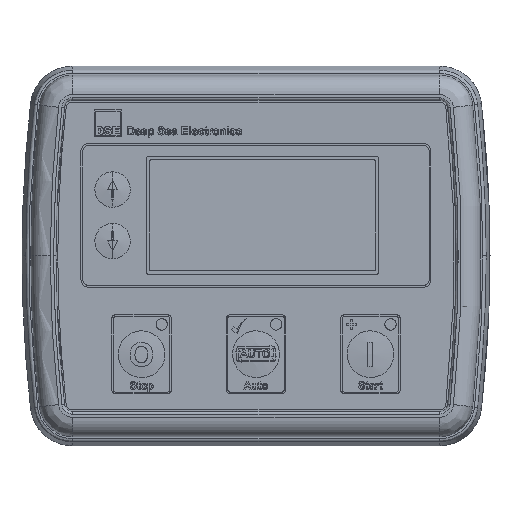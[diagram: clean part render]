
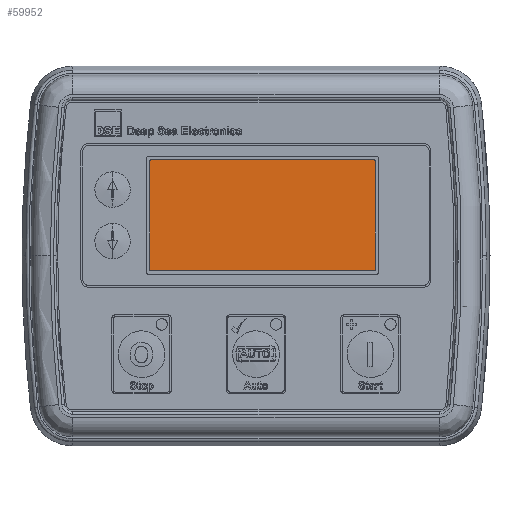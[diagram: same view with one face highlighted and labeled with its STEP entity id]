
A CAD part, top view. The second image highlights one B-rep face of the part: STEP entity #59952.
In plain terms, the highlighted planar face has unit normal (0, 0, 1).
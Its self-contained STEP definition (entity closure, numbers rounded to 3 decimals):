
#405 = CARTESIAN_POINT ( 'NONE',  ( -32.662, 29.83, 7.55 ) ) ;
#512 = CARTESIAN_POINT ( 'NONE',  ( 36.501, 29.848, 7.55 ) ) ;
#906 = CARTESIAN_POINT ( 'NONE',  ( 36.878, 29.676, 7.55 ) ) ;
#1164 = CARTESIAN_POINT ( 'NONE',  ( -32.633, -4.639, 7.55 ) ) ;
#1983 = CARTESIAN_POINT ( 'NONE',  ( -32.5, -4.652, 7.55 ) ) ;
#2278 = DIRECTION ( 'NONE',  ( 1., 0., 0. ) ) ;
#2480 = ORIENTED_EDGE ( 'NONE', *, *, #29955, .T. ) ;
#2641 = VERTEX_POINT ( 'NONE', #37662 ) ;
#5027 = VERTEX_POINT ( 'NONE', #40585 ) ;
#5478 = LINE ( 'NONE', #76329, #14823 ) ;
#6711 = CARTESIAN_POINT ( 'NONE',  ( -32.828, 29.725, 7.55 ) ) ;
#7124 = CARTESIAN_POINT ( 'NONE',  ( -33., 29.348, 7.55 ) ) ;
#7873 = CARTESIAN_POINT ( 'NONE',  ( -56.924, -45.75, 7.55 ) ) ;
#11368 = EDGE_CURVE ( 'NONE', #53713, #81193, #34201, .T. ) ;
#13528 = CARTESIAN_POINT ( 'NONE',  ( 36.757, 29.782, 7.55 ) ) ;
#14179 = FACE_OUTER_BOUND ( 'NONE', #39326, .T. ) ;
#14823 = VECTOR ( 'NONE', #63322, 1000. ) ;
#15208 = CARTESIAN_POINT ( 'NONE',  ( 36.568, -4.652, 7.55 ) ) ;
#19023 = VERTEX_POINT ( 'NONE', #25921 ) ;
#19317 = CARTESIAN_POINT ( 'NONE',  ( -32.987, 29.481, 7.55 ) ) ;
#19665 = DIRECTION ( 'NONE',  ( -1., 0., 0. ) ) ;
#20140 = CARTESIAN_POINT ( 'NONE',  ( -32.934, 29.605, 7.55 ) ) ;
#21042 = CARTESIAN_POINT ( 'NONE',  ( 36.569, 29.848, 7.55 ) ) ;
#23490 = LINE ( 'NONE', #49045, #26462 ) ;
#24001 = CARTESIAN_POINT ( 'NONE',  ( 37., -4.152, 7.55 ) ) ;
#24070 = CARTESIAN_POINT ( 'NONE',  ( 36.982, 29.51, 7.55 ) ) ;
#24218 = LINE ( 'NONE', #25858, #32873 ) ;
#25858 = CARTESIAN_POINT ( 'NONE',  ( 37., 0., 7.55 ) ) ;
#25921 = CARTESIAN_POINT ( 'NONE',  ( -32.5, 29.848, 7.55 ) ) ;
#26413 = CARTESIAN_POINT ( 'NONE',  ( -32.801, 29.747, 7.55 ) ) ;
#26462 = VECTOR ( 'NONE', #19665, 1000. ) ;
#26789 = CARTESIAN_POINT ( 'NONE',  ( -32.568, -4.652, 7.55 ) ) ;
#27347 = CARTESIAN_POINT ( 'NONE',  ( 36.899, 29.65, 7.55 ) ) ;
#29206 = EDGE_CURVE ( 'NONE', #2641, #47069, #5478, .T. ) ;
#29955 = EDGE_CURVE ( 'NONE', #51202, #41442, #69974, .T. ) ;
#31884 = CARTESIAN_POINT ( 'NONE',  ( -32.5, 29.848, 7.55 ) ) ;
#32873 = VECTOR ( 'NONE', #82045, 1000. ) ;
#33097 = EDGE_CURVE ( 'NONE', #47069, #53713, #42488, .T. ) ;
#33536 = CARTESIAN_POINT ( 'NONE',  ( -32.761, 29.776, 7.55 ) ) ;
#33888 = ORIENTED_EDGE ( 'NONE', *, *, #29206, .T. ) ;
#34201 = LINE ( 'NONE', #42171, #82115 ) ;
#34945 = CARTESIAN_POINT ( 'NONE',  ( 36.762, -4.58, 7.55 ) ) ;
#37055 = CARTESIAN_POINT ( 'NONE',  ( 37., 29.348, 7.55 ) ) ;
#37662 = CARTESIAN_POINT ( 'NONE',  ( -33., 29.348, 7.55 ) ) ;
#38423 = ORIENTED_EDGE ( 'NONE', *, *, #67024, .T. ) ;
#39326 = EDGE_LOOP ( 'NONE', ( #57599, #75067, #68872, #2480, #47342, #38423, #33888, #57464 ) ) ;
#39500 = CARTESIAN_POINT ( 'NONE',  ( -32.5, -4.652, 7.55 ) ) ;
#39774 = CARTESIAN_POINT ( 'NONE',  ( -32.981, -4.314, 7.55 ) ) ;
#40277 = EDGE_CURVE ( 'NONE', #5027, #51202, #24218, .T. ) ;
#40585 = CARTESIAN_POINT ( 'NONE',  ( 37., -4.152, 7.55 ) ) ;
#41442 = VERTEX_POINT ( 'NONE', #51398 ) ;
#42062 = CARTESIAN_POINT ( 'NONE',  ( 36.802, -4.55, 7.55 ) ) ;
#42171 = CARTESIAN_POINT ( 'NONE',  ( 0., -4.652, 7.55 ) ) ;
#42488 = B_SPLINE_CURVE_WITH_KNOTS ( 'NONE', 3,
 ( #46471, #59038, #39774, #72011, #66148, #52350, #59441, #47324, #71214, #1164, #26789, #1983 ),
 .UNSPECIFIED., .F., .F.,
 ( 4, 1, 1, 2, 2, 2, 4 ),
 ( 0., 0.25, 0.375, 0.438, 0.5, 0.75, 1. ),
 .UNSPECIFIED. ) ;
#43692 = EDGE_CURVE ( 'NONE', #41442, #19023, #23490, .T. ) ;
#46471 = CARTESIAN_POINT ( 'NONE',  ( -33., -4.152, 7.55 ) ) ;
#47069 = VERTEX_POINT ( 'NONE', #73470 ) ;
#47324 = CARTESIAN_POINT ( 'NONE',  ( -32.81, -4.55, 7.55 ) ) ;
#47342 = ORIENTED_EDGE ( 'NONE', *, *, #43692, .T. ) ;
#49045 = CARTESIAN_POINT ( 'NONE',  ( 0., 29.848, 7.55 ) ) ;
#49568 = CARTESIAN_POINT ( 'NONE',  ( 36.935, -4.409, 7.55 ) ) ;
#49638 = CARTESIAN_POINT ( 'NONE',  ( 36.929, 29.61, 7.55 ) ) ;
#50740 = CARTESIAN_POINT ( 'NONE',  ( -32.898, 29.658, 7.55 ) ) ;
#51202 = VERTEX_POINT ( 'NONE', #59422 ) ;
#51398 = CARTESIAN_POINT ( 'NONE',  ( 36.501, 29.848, 7.55 ) ) ;
#52350 = CARTESIAN_POINT ( 'NONE',  ( -32.877, -4.48, 7.55 ) ) ;
#52891 = CARTESIAN_POINT ( 'NONE',  ( 36.811, 29.746, 7.55 ) ) ;
#53713 = VERTEX_POINT ( 'NONE', #39500 ) ;
#55028 = CARTESIAN_POINT ( 'NONE',  ( 37., -4.22, 7.55 ) ) ;
#55823 = CARTESIAN_POINT ( 'NONE',  ( 36.899, -4.462, 7.55 ) ) ;
#57464 = ORIENTED_EDGE ( 'NONE', *, *, #33097, .T. ) ;
#57599 = ORIENTED_EDGE ( 'NONE', *, *, #11368, .T. ) ;
#57957 = CARTESIAN_POINT ( 'NONE',  ( 36.865, 29.691, 7.55 ) ) ;
#59038 = CARTESIAN_POINT ( 'NONE',  ( -33., -4.219, 7.55 ) ) ;
#59422 = CARTESIAN_POINT ( 'NONE',  ( 37., 29.348, 7.55 ) ) ;
#59441 = CARTESIAN_POINT ( 'NONE',  ( -32.864, -4.494, 7.55 ) ) ;
#59620 = B_SPLINE_CURVE_WITH_KNOTS ( 'NONE', 3,
 ( #78927, #15208, #61725, #34945, #42062, #67603, #81013, #55823, #49568, #79766, #55028, #24001 ),
 .UNSPECIFIED., .F., .F.,
 ( 4, 1, 1, 2, 2, 2, 4 ),
 ( 0., 0.25, 0.375, 0.438, 0.5, 0.75, 1. ),
 .UNSPECIFIED. ) ;
#59952 = ADVANCED_FACE ( 'NONE', ( #14179 ), #65301, .T. ) ;
#61725 = CARTESIAN_POINT ( 'NONE',  ( 36.662, -4.634, 7.55 ) ) ;
#63322 = DIRECTION ( 'NONE',  ( 0., -1., 0. ) ) ;
#63703 = B_SPLINE_CURVE_WITH_KNOTS ( 'NONE', 3,
 ( #31884, #83022, #405, #33536, #26413, #6711, #82594, #50740, #20140, #19317, #65350, #7124 ),
 .UNSPECIFIED., .F., .F.,
 ( 4, 1, 1, 2, 2, 2, 4 ),
 ( 0., 0.25, 0.375, 0.437, 0.5, 0.75, 1. ),
 .UNSPECIFIED. ) ;
#65301 = PLANE ( 'NONE',  #72215 ) ;
#65350 = CARTESIAN_POINT ( 'NONE',  ( -33., 29.416, 7.55 ) ) ;
#66148 = CARTESIAN_POINT ( 'NONE',  ( -32.898, -4.454, 7.55 ) ) ;
#67024 = EDGE_CURVE ( 'NONE', #19023, #2641, #63703, .T. ) ;
#67603 = CARTESIAN_POINT ( 'NONE',  ( 36.828, -4.529, 7.55 ) ) ;
#68372 = EDGE_CURVE ( 'NONE', #81193, #5027, #59620, .T. ) ;
#68872 = ORIENTED_EDGE ( 'NONE', *, *, #40277, .T. ) ;
#69974 = B_SPLINE_CURVE_WITH_KNOTS ( 'NONE', 3,
 ( #37055, #81466, #24070, #49638, #27347, #906, #57957, #52891, #13528, #78466, #21042, #512 ),
 .UNSPECIFIED., .F., .F.,
 ( 4, 1, 1, 2, 2, 2, 4 ),
 ( 0., 0.25, 0.375, 0.438, 0.5, 0.75, 1. ),
 .UNSPECIFIED. ) ;
#71214 = CARTESIAN_POINT ( 'NONE',  ( -32.757, -4.586, 7.55 ) ) ;
#72007 = DIRECTION ( 'NONE',  ( 1., 0., 0. ) ) ;
#72011 = CARTESIAN_POINT ( 'NONE',  ( -32.928, -4.413, 7.55 ) ) ;
#72215 = AXIS2_PLACEMENT_3D ( 'NONE', #7873, #78326, #72007 ) ;
#72823 = CARTESIAN_POINT ( 'NONE',  ( 36.501, -4.652, 7.55 ) ) ;
#73470 = CARTESIAN_POINT ( 'NONE',  ( -33., -4.152, 7.55 ) ) ;
#75067 = ORIENTED_EDGE ( 'NONE', *, *, #68372, .T. ) ;
#76329 = CARTESIAN_POINT ( 'NONE',  ( -33., 0., 7.55 ) ) ;
#78326 = DIRECTION ( 'NONE',  ( 0., 0., 1. ) ) ;
#78466 = CARTESIAN_POINT ( 'NONE',  ( 36.634, 29.835, 7.55 ) ) ;
#78927 = CARTESIAN_POINT ( 'NONE',  ( 36.501, -4.652, 7.55 ) ) ;
#79766 = CARTESIAN_POINT ( 'NONE',  ( 36.987, -4.285, 7.55 ) ) ;
#81013 = CARTESIAN_POINT ( 'NONE',  ( 36.843, -4.516, 7.55 ) ) ;
#81193 = VERTEX_POINT ( 'NONE', #72823 ) ;
#81466 = CARTESIAN_POINT ( 'NONE',  ( 37., 29.416, 7.55 ) ) ;
#82045 = DIRECTION ( 'NONE',  ( 0., 1., 0. ) ) ;
#82115 = VECTOR ( 'NONE', #2278, 1000. ) ;
#82594 = CARTESIAN_POINT ( 'NONE',  ( -32.842, 29.713, 7.55 ) ) ;
#83022 = CARTESIAN_POINT ( 'NONE',  ( -32.567, 29.848, 7.55 ) ) ;
